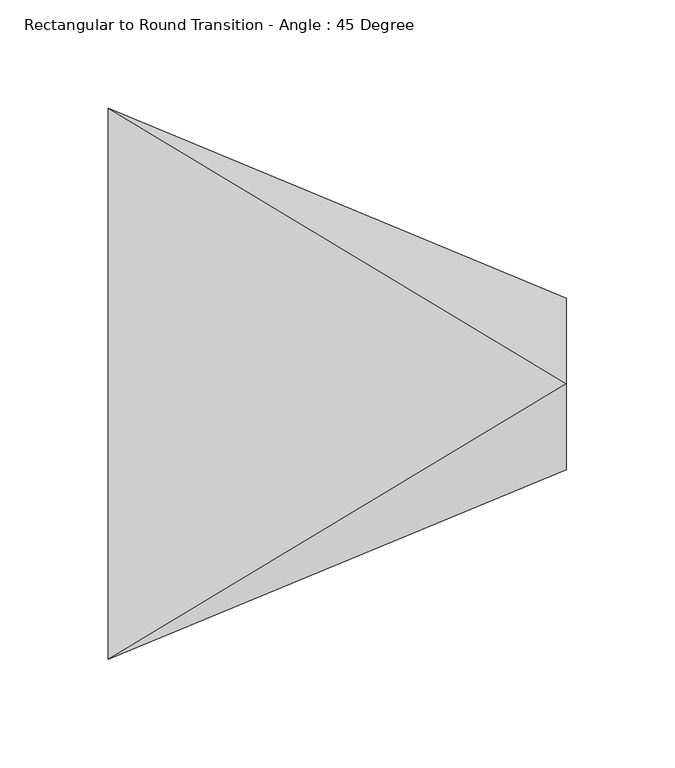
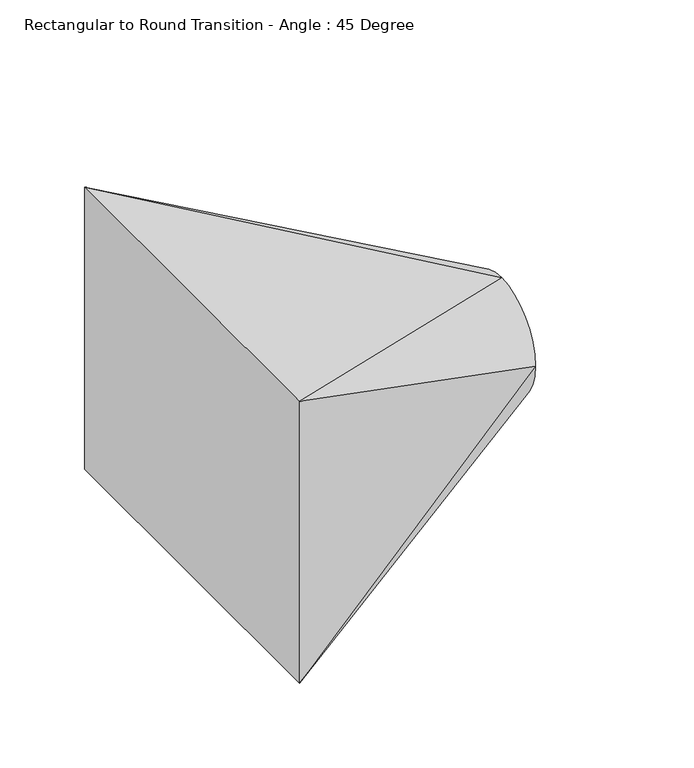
"""IFC4 building model written with IfcOpenShell, lengths in millimetres: duct fitting geometry, Rectangular to Round Transition - Angle : 45 Degree."""

from ifc_helpers import new_model, si_unit, frame, origin, place, context, project, spatial, circle_curve, source, transform, mapped, element, save
from ifc_brep_helpers import plane_surface, spline_surface, advanced_brep


def rectangular_to_round_transition_angle_45_degree_93651def(model_context):
    return source(origin(), model_context, "Body", "AdvancedBrep", [
        advanced_brep(
        [(211.0305569, 0.0, 39.5882813), (211.0305569, -39.5882812, 0.0), (211.0305569, 0.0, -39.5882812), (211.0305569, 39.5882813, 0.0), (0.0, -127.0, 101.6), (0.0, 127.0, 101.6), (0.0, 127.0, -101.6), (0.0, -127.0, -101.6)],
        [
            (0, 1, circle_curve(frame((211.0305569, 0.0, 0.0), z_axis=(1.0, 0.0, 0.0), x_axis=(0.0, 1.0, 0.0)), 39.5882813)),
            (1, 2, circle_curve(frame((211.0305569, 0.0, 0.0), z_axis=(1.0, 0.0, 0.0), x_axis=(0.0, 1.0, 0.0)), 39.5882813)),
            (2, 3, circle_curve(frame((211.0305569, 0.0, 0.0), z_axis=(1.0, 0.0, 0.0), x_axis=(0.0, 1.0, 0.0)), 39.5882813)),
            (3, 0, circle_curve(frame((211.0305569, 0.0, 0.0), z_axis=(1.0, 0.0, 0.0), x_axis=(0.0, 1.0, 0.0)), 39.5882813)),
            (4, 5),
            (5, 6),
            (6, 7),
            (7, 4),
            (0, 4),
            (4, 1),
            (7, 1),
            (7, 2),
            (6, 2),
            (6, 3),
            (5, 3),
            (5, 0),
        ],
        [
            plane_surface(frame((211.0305569, 0.0, 0.0), z_axis=(1.0, 0.0, 0.0), x_axis=(0.0, 0.0, -1.0))),
            plane_surface(frame((0.0, 0.0, 0.0), z_axis=(-1.0, 0.0, 0.0), x_axis=(0.0, 0.0, -1.0))),
            spline_surface(2, 1, [[(0.0, -127.0, 101.6), (211.0305569, 0.0, 39.5882813)], [(0.0, -127.0, 101.6), (211.0305569, -39.5882813, 39.58828140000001)], [(0.0, -127.0, 101.6), (211.0305569, -39.5882812, 0.0)]], [3, 3], [2, 2], [0.0, 1.0], [0.0, 1.0], weights=[[1.0, 1.0], [0.7071067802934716, 0.7071067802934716], [1.0, 1.0]]),
            plane_surface(frame((0.0, -127.0, 0.0), z_axis=(0.38268343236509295, -0.9238795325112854, 0.0), x_axis=(0.0, 0.0, -1.0))),
            spline_surface(2, 1, [[(0.0, -127.0, -101.6), (211.0305569, -39.5882812, 0.0)], [(0.0, -127.0, -101.6), (211.0305569, -39.5882812, -39.5882812)], [(0.0, -127.0, -101.6), (211.0305569, 0.0, -39.5882812)]], [3, 3], [2, 2], [0.0, 1.0], [0.0, 1.0], weights=[[1.0, 1.0], [0.7071067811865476, 0.7071067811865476], [1.0, 1.0]]),
            plane_surface(frame((0.0, 0.0, -101.6), z_axis=(0.2819316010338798, 0.0, -0.959434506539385), x_axis=(0.0, 1.0, 0.0))),
            spline_surface(2, 1, [[(0.0, 127.0, -101.6), (211.0305569, 0.0, -39.5882812)], [(0.0, 127.0, -101.6), (211.0305569, 39.5882812, -39.588281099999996)], [(0.0, 127.0, -101.6), (211.0305569, 39.5882813, 0.0)]], [3, 3], [2, 2], [0.0, 1.0], [0.0, 1.0], weights=[[1.0, 1.0], [0.7071067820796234, 0.7071067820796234], [1.0, 1.0]]),
            plane_surface(frame((0.0, 127.0, 0.0), z_axis=(0.382683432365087, 0.923879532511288, 0.0), x_axis=(0.0, 0.0, 1.0))),
            spline_surface(2, 1, [[(0.0, 127.0, 101.6), (211.0305569, 39.5882813, 0.0)], [(0.0, 127.0, 101.6), (211.0305569, 39.5882813, 39.5882813)], [(0.0, 127.0, 101.6), (211.0305569, 0.0, 39.5882813)]], [3, 3], [2, 2], [0.0, 1.0], [0.0, 1.0], weights=[[1.0, 1.0], [0.7071067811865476, 0.7071067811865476], [1.0, 1.0]]),
            plane_surface(frame((0.0, 0.0, 101.6), z_axis=(0.28193160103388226, 0.0, 0.9594345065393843), x_axis=(0.0, -1.0, 0.0))),
        ],
        [
            (0, [[1, 2, 3, 4]]),
            (1, [[5, 6, 7, 8]]),
            (2, [[-1, 9, 10]]),
            (3, [[-8, 11, -10]]),
            (4, [[-2, -11, 12]]),
            (5, [[-7, 13, -12]]),
            (6, [[-3, -13, 14]]),
            (7, [[-6, 15, -14]]),
            (8, [[-4, -15, 16]]),
            (9, [[-5, -9, -16]]),
        ],
    ),
    ])


if __name__ == "__main__":
    model = new_model("IFC4")
    model_context = context("Model", 3, world=origin())
    ifc_project = project(units=[si_unit("LENGTHUNIT", "METRE", prefix="MILLI")], contexts=[model_context])
    site = spatial("IfcSite", under=ifc_project)
    building = spatial("IfcBuilding", under=site)
    placement = place(None, origin())
    rectangular_to_round_transition_angle_45_degree_shape = rectangular_to_round_transition_angle_45_degree_93651def(model_context)
    element("IfcDuctFitting", 1, ObjectType="Rectangular to Round Transition - Angle : 45 Degree", at=placement, inside=building, context=model_context, shape_type="MappedRepresentation", body=[
        mapped(rectangular_to_round_transition_angle_45_degree_shape, transform((0.0, 0.0, 0.0), x_axis=(1.0, 0.0, 0.0), y_axis=(0.0, 1.0, 0.0), z_axis=(0.0, 0.0, 1.0))),
    ])
    save(model, "model.ifc")
